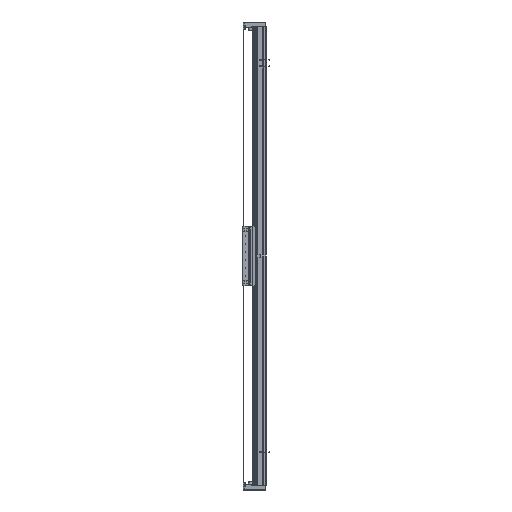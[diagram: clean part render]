
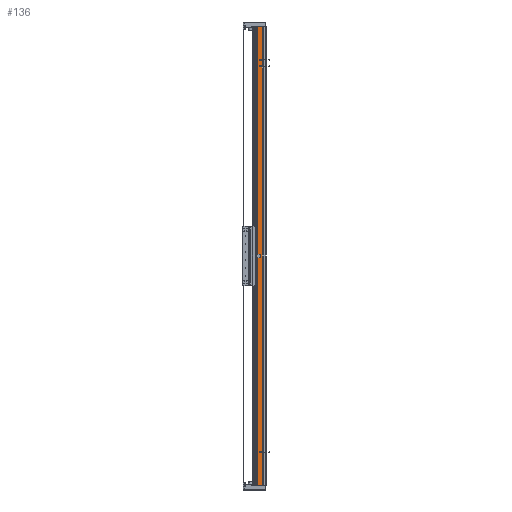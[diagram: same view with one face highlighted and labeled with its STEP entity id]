
A CAD part, left-side view. The second image highlights one B-rep face of the part: STEP entity #136.
In plain terms, the highlighted planar face has unit normal (-1, 0, 0).
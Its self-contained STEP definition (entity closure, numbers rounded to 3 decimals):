
#136 = ADVANCED_FACE ( 'NONE', ( #64780 ), #42431, .F. ) ;
#3543 = DIRECTION ( 'NONE',  ( 0., -1., 0. ) ) ;
#7327 = LINE ( 'NONE', #116057, #101616 ) ;
#7714 = EDGE_CURVE ( 'NONE', #65845, #62656, #7327, .T. ) ;
#13648 = CARTESIAN_POINT ( 'NONE',  ( -82.5, 36.95, 960. ) ) ;
#14560 = DIRECTION ( 'NONE',  ( 0., -1., 0. ) ) ;
#15931 = DIRECTION ( 'NONE',  ( 0., 0., -1. ) ) ;
#19299 = ORIENTED_EDGE ( 'NONE', *, *, #53444, .F. ) ;
#19543 = VECTOR ( 'NONE', #15931, 1000. ) ;
#20159 = LINE ( 'NONE', #61111, #47651 ) ;
#23650 = AXIS2_PLACEMENT_3D ( 'NONE', #13648, #101357, #23845 ) ;
#23845 = DIRECTION ( 'NONE',  ( 0., 1., 0. ) ) ;
#25518 = CARTESIAN_POINT ( 'NONE',  ( -82.5, 36.95, 960. ) ) ;
#25616 = VERTEX_POINT ( 'NONE', #74789 ) ;
#28024 = VERTEX_POINT ( 'NONE', #44860 ) ;
#29625 = EDGE_CURVE ( 'NONE', #25616, #28024, #94647, .T. ) ;
#33718 = CARTESIAN_POINT ( 'NONE',  ( -82.5, 36.95, -960. ) ) ;
#42431 = PLANE ( 'NONE',  #23650 ) ;
#43401 = ORIENTED_EDGE ( 'NONE', *, *, #63281, .T. ) ;
#44860 = CARTESIAN_POINT ( 'NONE',  ( -82.5, 36.95, -960. ) ) ;
#47651 = VECTOR ( 'NONE', #3543, 1000. ) ;
#53444 = EDGE_CURVE ( 'NONE', #25616, #65845, #20159, .T. ) ;
#61111 = CARTESIAN_POINT ( 'NONE',  ( -82.5, 36.95, 960. ) ) ;
#62656 = VERTEX_POINT ( 'NONE', #124259 ) ;
#63281 = EDGE_CURVE ( 'NONE', #28024, #62656, #121441, .T. ) ;
#64780 = FACE_OUTER_BOUND ( 'NONE', #110763, .T. ) ;
#65845 = VERTEX_POINT ( 'NONE', #93561 ) ;
#69840 = VECTOR ( 'NONE', #14560, 1000. ) ;
#74789 = CARTESIAN_POINT ( 'NONE',  ( -82.5, 36.95, 960. ) ) ;
#92536 = ORIENTED_EDGE ( 'NONE', *, *, #29625, .T. ) ;
#93561 = CARTESIAN_POINT ( 'NONE',  ( -82.5, 14.45, 960. ) ) ;
#94647 = LINE ( 'NONE', #25518, #19543 ) ;
#97502 = DIRECTION ( 'NONE',  ( 0., 0., -1. ) ) ;
#100395 = ORIENTED_EDGE ( 'NONE', *, *, #7714, .F. ) ;
#101357 = DIRECTION ( 'NONE',  ( 1., 0., 0. ) ) ;
#101616 = VECTOR ( 'NONE', #97502, 1000. ) ;
#110763 = EDGE_LOOP ( 'NONE', ( #43401, #100395, #19299, #92536 ) ) ;
#116057 = CARTESIAN_POINT ( 'NONE',  ( -82.5, 14.45, 960. ) ) ;
#121441 = LINE ( 'NONE', #33718, #69840 ) ;
#124259 = CARTESIAN_POINT ( 'NONE',  ( -82.5, 14.45, -960. ) ) ;
